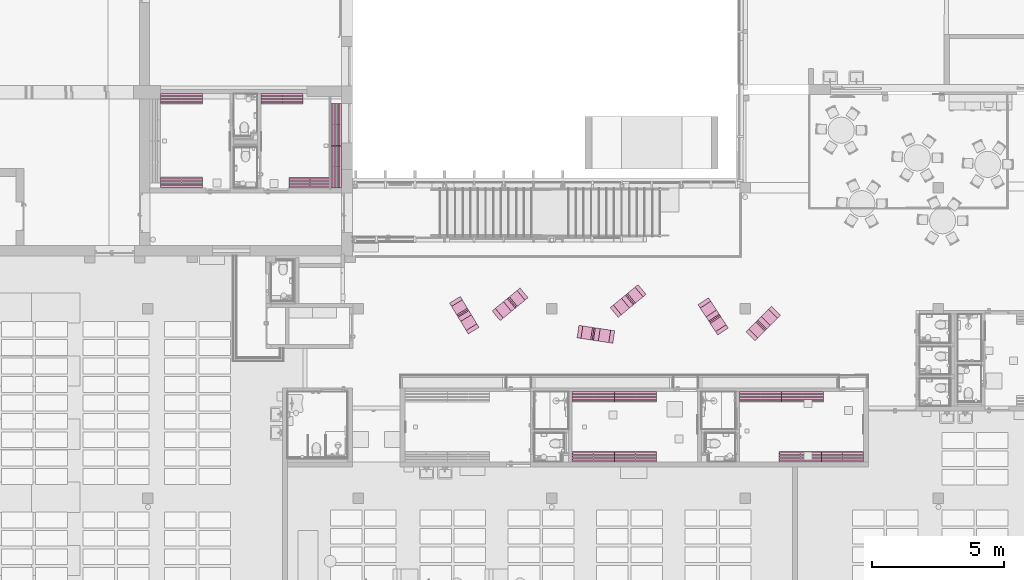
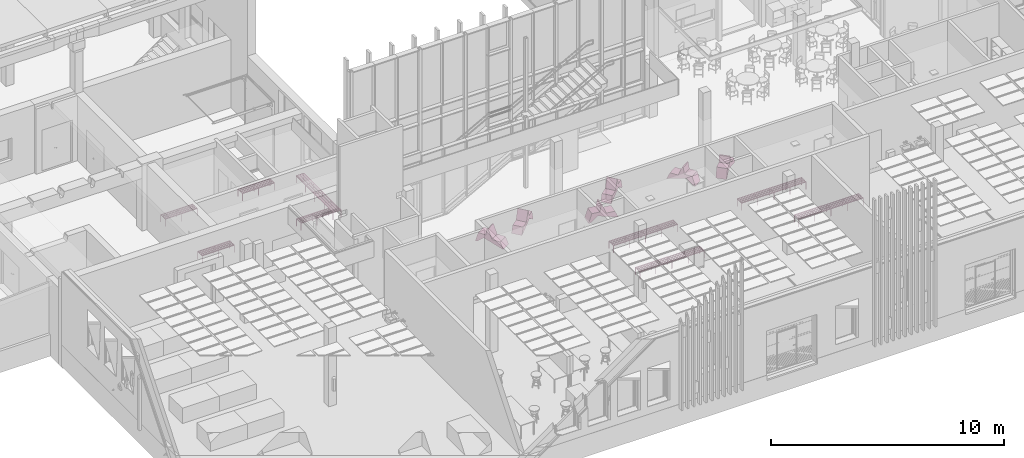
# One storey, part 272 of 301: 20 furnishings.
"""IFC2X3 building model written with IfcOpenShell, lengths in millimetres."""

import ifcopenshell
import ifcopenshell.guid

model = None  # the IFC model being written
_history = None  # IfcOwnerHistory: only IFC2X3 demands one
_inside = {}  # id of a spatial element -> (the spatial element, [elements in it])
_under = {}  # id of a project, library or spatial element -> (it, [spatial elements below it])
_declared = {}  # id of a project -> (the project, [libraries it declares])
_typed = {}  # id of a type object -> (the type object, [elements of that type])
_made_of = {}  # id of a material, layer set ... -> (it, [elements and type objects made of it])


def new_model(schema):
    """Start an empty IFC model of exactly this schema.

    Asked for "IFC4X3", IfcOpenShell would pick the latest addendum, in which some entities
    have other attributes; the version numbers below select the first issue.
    IFC2X3 requires an IfcOwnerHistory on every rooted entity: one is made here for all.
    """
    global model, _history
    if schema == "IFC4X3":
        model = ifcopenshell.file(schema_version=(4, 3, 0, 0))
    else:
        model = ifcopenshell.file(schema=schema)
    _inside.clear()
    _under.clear()
    _declared.clear()
    _typed.clear()
    _made_of.clear()
    _history = None
    if model.schema == "IFC2X3":
        org = make("IfcOrganization", Name="unknown")
        user = make(
            "IfcPersonAndOrganization",
            ThePerson=make("IfcPerson", FamilyName="unknown"),
            TheOrganization=org,
        )
        app = make(
            "IfcApplication",
            ApplicationDeveloper=org,
            Version="unknown",
            ApplicationFullName="unknown",
            ApplicationIdentifier="unknown",
        )
        _history = make(
            "IfcOwnerHistory",
            OwningUser=user,
            OwningApplication=app,
            ChangeAction="ADDED",
            CreationDate=0,
        )
    return model


def make(cls, **values):
    """One entity of the class cls with the attributes given. An attribute that is None is left unset."""
    return model.create_entity(
        cls, **{name: value for name, value in values.items() if value is not None}
    )


def entity(cls, *values):
    """Any entity or typed value of the class cls, its attributes in the order of the schema. None: left unset."""
    e = model.create_entity(cls)
    for i, value in enumerate(values):
        if value is not None:
            e[i] = value
    return e


def rooted(cls, **values):
    """An entity with a GlobalId (a new one), such as an element, a storey or a relation."""
    return make(cls, GlobalId=ifcopenshell.guid.new(), OwnerHistory=_history, **values)


def si_unit(unit_type, name, prefix=None):
    """IfcSIUnit, for example si_unit("LENGTHUNIT", "METRE", prefix="MILLI")."""
    return make("IfcSIUnit", UnitType=unit_type, Prefix=prefix, Name=name)


def converted_unit(unit_type, name, factor, base, dimensions=None, offset=None):
    """IfcConversionBasedUnit, such as the inch: factor (a typed value) times the base unit."""
    return make(
        "IfcConversionBasedUnit"
        if offset is None
        else "IfcConversionBasedUnitWithOffset",
        ConversionOffset=offset,
        Dimensions=None
        if dimensions is None
        else entity("IfcDimensionalExponents", *dimensions),
        UnitType=unit_type,
        Name=name,
        ConversionFactor=make(
            "IfcMeasureWithUnit", ValueComponent=factor, UnitComponent=base
        ),
    )


def derived_unit(unit_type, elements):
    """IfcDerivedUnit: a product of units, each with its exponent."""
    return make(
        "IfcDerivedUnit",
        Elements=[
            make("IfcDerivedUnitElement", Unit=unit, Exponent=power)
            for unit, power in elements
        ],
        UnitType=unit_type,
    )


def money_unit(currency):
    """IfcMonetaryUnit."""
    return make("IfcMonetaryUnit", Currency=currency)


def assignment(units):
    """IfcUnitAssignment: the units of a project."""
    return None if units is None else make("IfcUnitAssignment", Units=units)


def point(xyz):
    """IfcCartesianPoint."""
    return None if xyz is None else make("IfcCartesianPoint", Coordinates=xyz)


def direction(xyz):
    """IfcDirection."""
    return None if xyz is None else make("IfcDirection", DirectionRatios=xyz)


def frame(location, z_axis=None, x_axis=None):
    """IfcAxis2Placement3D, a coordinate frame: its origin and axes. An axis left out is left unset."""
    return make(
        "IfcAxis2Placement3D",
        Location=point(location),
        Axis=direction(z_axis),
        RefDirection=direction(x_axis),
    )


def origin_with_axes():
    """The frame at (0, 0, 0) with the z axis (0, 0, 1) and the x axis (1, 0, 0) written out."""
    return frame((0.0, 0.0, 0.0), z_axis=(0.0, 0.0, 1.0), x_axis=(1.0, 0.0, 0.0))


def place(relative_to, where):
    """IfcLocalPlacement: puts the frame where relative to a parent placement (None: the world)."""
    return make(
        "IfcLocalPlacement", PlacementRelTo=relative_to, RelativePlacement=where
    )


def context(
    kind, dimensions, precision=None, world=None, true_north=None, identifier=None
):
    """IfcGeometricRepresentationContext, for example the 3D "Model" context."""
    return make(
        "IfcGeometricRepresentationContext",
        ContextIdentifier=identifier,
        ContextType=kind,
        CoordinateSpaceDimension=dimensions,
        Precision=precision,
        WorldCoordinateSystem=world,
        TrueNorth=true_north,
    )


def subcontext(parent, identifier, kind, view, scale=None):
    """IfcGeometricRepresentationSubContext, for example "Body" below "Model"."""
    return make(
        "IfcGeometricRepresentationSubContext",
        ContextIdentifier=identifier,
        ContextType=kind,
        ParentContext=parent,
        TargetScale=scale,
        TargetView=view,
    )


def project(units=None, contexts=None):
    """IfcProject with its units and contexts."""
    return rooted(
        "IfcProject",
        Name="project",
        RepresentationContexts=contexts,
        UnitsInContext=assignment(units),
    )


def spatial(cls, under=None, at=None, **own):
    """A site, building, storey or space (cls), placed at a placement, below another one or the project."""
    s = rooted(cls, ObjectPlacement=at, **own)
    if under is not None:
        _under.setdefault(under.id(), (under, []))[1].append(s)
    return s


def faces_of(points, faces, orient=None, outer=None):
    """IfcFace entities. A face is a list of loops; a loop is a list of indices into points, from 0.

    orient and outer hold one flag for each loop. By default every Orientation is true, the
    first loop of a face is its IfcFaceOuterBound and the others are IfcFaceBound.
    """
    made = []
    for i, loops in enumerate(faces):
        bounds = []
        for j, loop in enumerate(loops):
            is_outer = j == 0 if outer is None else outer[i][j]
            bounds.append(
                make(
                    "IfcFaceOuterBound" if is_outer else "IfcFaceBound",
                    Bound=make("IfcPolyLoop", Polygon=[points[k] for k in loop]),
                    Orientation=True if orient is None else orient[i][j],
                )
            )
        made.append(make("IfcFace", Bounds=bounds))
    return made


def faceted_brep(points, faces, orient=None, outer=None, voids=None):
    """IfcFacetedBrep: a solid bounded by flat faces; with voids (closed shells), ...WithVoids."""
    shared = [point(p) for p in points]
    hull = make("IfcClosedShell", CfsFaces=faces_of(shared, faces, orient, outer))
    if voids is None:
        return make("IfcFacetedBrep", Outer=hull)
    return make(
        "IfcFacetedBrepWithVoids",
        Outer=hull,
        Voids=[
            make(cls, CfsFaces=faces_of(shared, fs, o, b)) for cls, fs, o, b in voids
        ],
    )


def shape(context_of_items, identifier, shape_type, items):
    """IfcShapeRepresentation: the items that make up one representation, for example the "Body"."""
    return make(
        "IfcShapeRepresentation",
        ContextOfItems=context_of_items,
        RepresentationIdentifier=identifier,
        RepresentationType=shape_type,
        Items=items,
    )


def source(mapping_origin, context_of_items, identifier, shape_type, items):
    """IfcRepresentationMap: a shape defined once, which mapped items show again and again."""
    return make(
        "IfcRepresentationMap",
        MappingOrigin=mapping_origin,
        MappedRepresentation=shape(context_of_items, identifier, shape_type, items),
    )


def transform(
    local_origin,
    x_axis=None,
    y_axis=None,
    z_axis=None,
    scale=None,
    scale2=None,
    scale3=None,
    uniform=True,
):
    """IfcCartesianTransformationOperator3D, or its non-uniform kind. x_axis, y_axis, z_axis: its Axis1, 2, 3."""
    if uniform:
        return make(
            "IfcCartesianTransformationOperator3D",
            Axis1=direction(x_axis),
            Axis2=direction(y_axis),
            LocalOrigin=point(local_origin),
            Scale=scale,
            Axis3=direction(z_axis),
        )
    return make(
        "IfcCartesianTransformationOperator3DnonUniform",
        Axis1=direction(x_axis),
        Axis2=direction(y_axis),
        LocalOrigin=point(local_origin),
        Scale=scale,
        Axis3=direction(z_axis),
        Scale2=scale2,
        Scale3=scale3,
    )


def mapped(mapping_source, mapping_target):
    """IfcMappedItem: shows the shape of a source again, moved by a transform."""
    return make(
        "IfcMappedItem", MappingSource=mapping_source, MappingTarget=mapping_target
    )


def material(Name=None, Category=None):
    """IfcMaterial."""
    return make("IfcMaterial", Name=Name, Category=Category)


def made_of(thing, what):
    """Note that an element or type object is made of a material, layer set ...; save() writes the relation."""
    if what is not None:
        _made_of.setdefault(what.id(), (what, []))[1].append(thing)
    return thing


def type_object(cls, material=None, **own):
    """A type object (cls), such as IfcWallType, which elements share."""
    return made_of(rooted(cls, **own), material)


def element(
    cls,
    number,
    at=None,
    inside=None,
    cuts=None,
    type_object=None,
    material=None,
    context=None,
    identifier="Body",
    shape_type=None,
    held_by="IfcProductDefinitionShape",
    body=None,
    shapes=None,
    **own,
):
    """One element of the class cls, such as IfcWall. Its Tag is "e" and its number.

    at: its placement. inside: the storey or other place that contains it. cuts: it is an
    opening in that element (IfcRelVoidsElement). A single representation is given by context,
    identifier, shape_type and body (its items); several are given by shapes. held_by: the class
    of the entity that holds the representations. save() writes the other relations.
    """
    e = rooted(cls, Tag="e%d" % number, ObjectPlacement=at, **own)
    if body is not None:
        shapes = [shape(context, identifier, shape_type, body)]
    if shapes is not None:
        e.Representation = make(held_by, Representations=shapes)
    if inside is not None:
        _inside.setdefault(inside.id(), (inside, []))[1].append(e)
    if cuts is not None:
        rooted(
            "IfcRelVoidsElement", RelatingBuildingElement=cuts, RelatedOpeningElement=e
        )
    if type_object is not None:
        _typed.setdefault(type_object.id(), (type_object, []))[1].append(e)
    return made_of(e, material)


def aggregate(whole, parts):
    """IfcRelAggregates: a whole, such as a stair, and the parts it consists of."""
    return rooted("IfcRelAggregates", RelatingObject=whole, RelatedObjects=parts)


def save(model, path):
    """Write the relations noted so far, then the file.

    IfcRelAggregates (storeys below a building ...), IfcRelContainedInSpatialStructure (elements
    in a storey), IfcRelDefinesByType, IfcRelAssociatesMaterial and IfcRelDeclares: one each for
    every whole, place, type object, material and project.
    """
    for whole, parts in _under.values():
        aggregate(whole, parts)
    for where, things in _inside.values():
        rooted(
            "IfcRelContainedInSpatialStructure",
            RelatedElements=things,
            RelatingStructure=where,
        )
    for kind, things in _typed.values():
        rooted("IfcRelDefinesByType", RelatedObjects=things, RelatingType=kind)
    for what, things in _made_of.values():
        rooted("IfcRelAssociatesMaterial", RelatedObjects=things, RelatingMaterial=what)
    for by, libraries in _declared.values():
        rooted("IfcRelDeclares", RelatingContext=by, RelatedDefinitions=libraries)
    model.write(path)


model = new_model("IFC2X3")

# Units and contexts
model_context = context("Model", 3, precision=0.01, world=origin_with_axes(), true_north=direction((0.0, 1.0)))
body_context = subcontext(model_context, "Body", "Model", "MODEL_VIEW")
ifc_project = project(units=[si_unit("LENGTHUNIT", "METRE", prefix="MILLI"), si_unit("AREAUNIT", "SQUARE_METRE"), si_unit("VOLUMEUNIT", "CUBIC_METRE"), converted_unit("PLANEANGLEUNIT", "DEGREE", entity("IfcPlaneAngleMeasure", 0.0174532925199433), si_unit("PLANEANGLEUNIT", "RADIAN"), dimensions=[0, 0, 0, 0, 0, 0, 0]), money_unit("EUR"), converted_unit("TIMEUNIT", "Year", entity("IfcTimeMeasure", 31557600.0), si_unit("TIMEUNIT", "SECOND"), dimensions=[0, 0, 1, 0, 0, 0, 0]), si_unit("MASSUNIT", "GRAM", prefix="KILO"), si_unit("THERMODYNAMICTEMPERATUREUNIT", "DEGREE_CELSIUS"), si_unit("LUMINOUSINTENSITYUNIT", "LUMEN"), si_unit("ENERGYUNIT", "JOULE", prefix="MEGA"), derived_unit("THERMALCONDUCTANCEUNIT", [(si_unit("POWERUNIT", "WATT"), 1), (si_unit("LENGTHUNIT", "METRE"), -1), (si_unit("THERMODYNAMICTEMPERATUREUNIT", "KELVIN"), -1)]), derived_unit("SPECIFICHEATCAPACITYUNIT", [(si_unit("ENERGYUNIT", "JOULE"), 1), (si_unit("MASSUNIT", "GRAM", prefix="KILO"), -1), (si_unit("THERMODYNAMICTEMPERATUREUNIT", "KELVIN"), -1)]), derived_unit("MASSDENSITYUNIT", [(si_unit("MASSUNIT", "GRAM", prefix="KILO"), 1), (si_unit("VOLUMEUNIT", "CUBIC_METRE"), -1)])], contexts=[model_context])

# Site, building, storey
site_placement = place(None, frame((0.0, 0.0, 8650.0), z_axis=(0.0, 0.0, 1.0), x_axis=(1.0, 0.0, 0.0)))
site = spatial("IfcSite", under=ifc_project, at=site_placement, Name="43301:001:0844", CompositionType="ELEMENT")
building_placement = place(site_placement, origin_with_axes())
building = spatial("IfcBuilding", under=site, at=building_placement, Name="Kuressaare Ametikooli tuulikute mehaanikute õppekorpus", CompositionType="ELEMENT")
storey_placement = place(building_placement, origin_with_axes())
storey = spatial("IfcBuildingStorey", under=building, at=storey_placement, Name="1.korrus", CompositionType="ELEMENT", Elevation=0.0)

# Furnishings
furniture_type_1 = type_object("IfcFurnitureType", Name="Bench 27", AssemblyPlace="NOTDEFINED")
shared_shape_1 = source(origin_with_axes(), body_context, "Body", "Brep", [
    faceted_brep([(20.0, 0.0, 0.0), (0.0, 0.0, 0.0), (0.0, 20.0, 0.0), (20.0, 20.0, 0.0), (20.0, 0.0, 385.0), (0.0, 0.0, 385.0), (0.0, 20.0, 385.0), (20.0, 20.0, 385.0)], [[[0, 1, 2, 3]], [[1, 0, 4, 5]], [[2, 1, 5, 6]], [[3, 2, 6, 7]], [[0, 3, 7, 4]], [[5, 4, 7, 6]]]),
    faceted_brep([(20.0, 380.0, 0.0), (0.0, 380.0, 0.0), (0.0, 400.0, 0.0), (20.0, 400.0, 0.0), (20.0, 380.0, 385.0), (0.0, 380.0, 385.0), (0.0, 400.0, 385.0), (20.0, 400.0, 385.0)], [[[0, 1, 2, 3]], [[1, 0, 4, 5]], [[2, 1, 5, 6]], [[3, 2, 6, 7]], [[0, 3, 7, 4]], [[5, 4, 7, 6]]]),
    faceted_brep([(1600.000000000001, 0.0, 0.0), (1580.000000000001, 0.0, 0.0), (1580.000000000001, 20.0, 0.0), (1600.000000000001, 20.0, 0.0), (1600.000000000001, 0.0, 385.0), (1580.000000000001, 0.0, 385.0), (1580.000000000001, 20.0, 385.0), (1600.000000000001, 20.0, 385.0)], [[[0, 1, 2, 3]], [[1, 0, 4, 5]], [[2, 1, 5, 6]], [[3, 2, 6, 7]], [[0, 3, 7, 4]], [[5, 4, 7, 6]]]),
    faceted_brep([(1600.000000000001, 380.0, 0.0), (1580.000000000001, 380.0, 0.0), (1580.000000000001, 400.0, 0.0), (1600.000000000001, 400.0, 0.0), (1600.000000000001, 380.0, 385.0), (1580.000000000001, 380.0, 385.0), (1580.000000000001, 400.0, 385.0), (1600.000000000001, 400.0, 385.0)], [[[0, 1, 2, 3]], [[1, 0, 4, 5]], [[2, 1, 5, 6]], [[3, 2, 6, 7]], [[0, 3, 7, 4]], [[5, 4, 7, 6]]]),
    faceted_brep([(810.0000000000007, 0.0, 0.0), (790.0000000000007, 0.0, 0.0), (790.0000000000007, 20.0, 0.0), (810.0000000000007, 20.0, 0.0), (810.0000000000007, 0.0, 385.0), (790.0000000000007, 0.0, 385.0), (790.0000000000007, 20.0, 385.0), (810.0000000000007, 20.0, 385.0)], [[[0, 1, 2, 3]], [[1, 0, 4, 5]], [[2, 1, 5, 6]], [[3, 2, 6, 7]], [[0, 3, 7, 4]], [[5, 4, 7, 6]]]),
    faceted_brep([(810.0000000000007, 380.0, 0.0), (790.0000000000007, 380.0, 0.0), (790.0000000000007, 400.0, 0.0), (810.0000000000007, 400.0, 0.0), (810.0000000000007, 380.0, 385.0), (790.0000000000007, 380.0, 385.0), (790.0000000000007, 400.0, 385.0), (810.0000000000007, 400.0, 385.0)], [[[0, 1, 2, 3]], [[1, 0, 4, 5]], [[2, 1, 5, 6]], [[3, 2, 6, 7]], [[0, 3, 7, 4]], [[5, 4, 7, 6]]]),
    faceted_brep([(790.0000000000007, 0.0, 365.0000000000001), (20.0, 0.0, 365.0000000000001), (20.0, 20.0, 365.0000000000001), (790.0000000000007, 20.0, 365.0000000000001), (790.0000000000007, 0.0, 385.0000000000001), (20.0, 0.0, 385.0000000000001), (20.0, 20.0, 385.0000000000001), (790.0000000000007, 20.0, 385.0000000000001)], [[[0, 1, 2, 3]], [[1, 0, 4, 5]], [[2, 1, 5, 6]], [[3, 2, 6, 7]], [[0, 3, 7, 4]], [[5, 4, 7, 6]]]),
    faceted_brep([(1580.000000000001, 0.0, 365.0000000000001), (810.0000000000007, 0.0, 365.0000000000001), (810.0000000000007, 20.0, 365.0000000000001), (1580.000000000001, 20.0, 365.0000000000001), (1580.000000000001, 0.0, 385.0000000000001), (810.0000000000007, 0.0, 385.0000000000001), (810.0000000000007, 20.0, 385.0000000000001), (1580.000000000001, 20.0, 385.0000000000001)], [[[0, 1, 2, 3]], [[1, 0, 4, 5]], [[2, 1, 5, 6]], [[3, 2, 6, 7]], [[0, 3, 7, 4]], [[5, 4, 7, 6]]]),
    faceted_brep([(790.0000000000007, 380.0, 365.0000000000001), (20.0, 380.0, 365.0000000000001), (20.0, 400.0, 365.0000000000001), (790.0000000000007, 400.0, 365.0000000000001), (790.0000000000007, 380.0, 385.0000000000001), (20.0, 380.0, 385.0000000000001), (20.0, 400.0, 385.0000000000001), (790.0000000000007, 400.0, 385.0000000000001)], [[[0, 1, 2, 3]], [[1, 0, 4, 5]], [[2, 1, 5, 6]], [[3, 2, 6, 7]], [[0, 3, 7, 4]], [[5, 4, 7, 6]]]),
    faceted_brep([(1580.000000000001, 380.0, 365.0000000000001), (810.0000000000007, 380.0, 365.0000000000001), (810.0000000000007, 400.0, 365.0000000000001), (1580.000000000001, 400.0, 365.0000000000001), (1580.000000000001, 380.0, 385.0000000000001), (810.0000000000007, 380.0, 385.0000000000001), (810.0000000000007, 400.0, 385.0000000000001), (1580.000000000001, 400.0, 385.0000000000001)], [[[0, 1, 2, 3]], [[1, 0, 4, 5]], [[2, 1, 5, 6]], [[3, 2, 6, 7]], [[0, 3, 7, 4]], [[5, 4, 7, 6]]]),
    faceted_brep([(20.0, 20.0, 365.0000000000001), (0.0, 20.0, 365.0000000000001), (0.0, 380.0000000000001, 365.0000000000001), (20.0, 380.0000000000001, 365.0000000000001), (20.0, 20.0, 385.0000000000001), (0.0, 20.0, 385.0000000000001), (0.0, 380.0000000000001, 385.0000000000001), (20.0, 380.0000000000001, 385.0000000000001)], [[[0, 1, 2, 3]], [[1, 0, 4, 5]], [[2, 1, 5, 6]], [[3, 2, 6, 7]], [[0, 3, 7, 4]], [[5, 4, 7, 6]]]),
    faceted_brep([(810.0000000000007, 20.0, 365.0000000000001), (790.0000000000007, 20.0, 365.0000000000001), (790.0000000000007, 380.0000000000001, 365.0000000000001), (810.0000000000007, 380.0000000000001, 365.0000000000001), (810.0000000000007, 20.0, 385.0000000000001), (790.0000000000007, 20.0, 385.0000000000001), (790.0000000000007, 380.0000000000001, 385.0000000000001), (810.0000000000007, 380.0000000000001, 385.0000000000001)], [[[0, 1, 2, 3]], [[1, 0, 4, 5]], [[2, 1, 5, 6]], [[3, 2, 6, 7]], [[0, 3, 7, 4]], [[5, 4, 7, 6]]]),
    faceted_brep([(1600.000000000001, 20.0, 365.0000000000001), (1580.000000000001, 20.0, 365.0000000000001), (1580.000000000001, 380.0000000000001, 365.0000000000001), (1600.000000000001, 380.0000000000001, 365.0000000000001), (1600.000000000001, 20.0, 385.0000000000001), (1580.000000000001, 20.0, 385.0000000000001), (1580.000000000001, 380.0000000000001, 385.0000000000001), (1600.000000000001, 380.0000000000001, 385.0000000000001)], [[[0, 1, 2, 3]], [[1, 0, 4, 5]], [[2, 1, 5, 6]], [[3, 2, 6, 7]], [[0, 3, 7, 4]], [[5, 4, 7, 6]]]),
    faceted_brep([(0.0, 330.0, 385.0), (1600.000000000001, 330.0, 385.0), (1600.000000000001, 330.0, 400.0), (0.0, 330.0, 400.0), (0.0, 400.0, 385.0), (1600.000000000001, 400.0, 385.0), (1600.000000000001, 400.0, 400.0), (0.0, 400.0, 400.0)], [[[0, 1, 2, 3]], [[0, 4, 5, 1]], [[1, 5, 6, 2]], [[3, 2, 6, 7]], [[4, 0, 3, 7]], [[5, 4, 7, 6]]]),
    faceted_brep([(1600.000000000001, 0.0, 385.0), (0.0, 0.0, 385.0), (0.0, 70.0, 385.0), (1600.000000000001, 70.0, 385.0), (1600.000000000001, 0.0, 400.0), (0.0, 0.0, 400.0), (0.0, 70.0, 400.0), (1600.000000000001, 70.0, 400.0)], [[[0, 1, 2, 3]], [[1, 0, 4, 5]], [[2, 1, 5, 6]], [[3, 2, 6, 7]], [[0, 3, 7, 4]], [[5, 4, 7, 6]]]),
    faceted_brep([(1600.000000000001, 110.0, 385.0), (0.0, 110.0, 385.0), (0.0, 180.0, 385.0), (1600.000000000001, 180.0, 385.0), (1600.000000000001, 110.0, 400.0), (0.0, 110.0, 400.0), (0.0, 180.0, 400.0), (1600.000000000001, 180.0, 400.0)], [[[0, 1, 2, 3]], [[1, 0, 4, 5]], [[2, 1, 5, 6]], [[3, 2, 6, 7]], [[0, 3, 7, 4]], [[5, 4, 7, 6]]]),
    faceted_brep([(1600.000000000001, 220.0, 385.0), (0.0, 220.0, 385.0), (0.0, 290.0000000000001, 385.0), (1600.000000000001, 290.0000000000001, 385.0), (1600.000000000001, 220.0, 400.0), (0.0, 220.0, 400.0), (0.0, 290.0000000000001, 400.0), (1600.000000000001, 290.0000000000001, 400.0)], [[[0, 1, 2, 3]], [[1, 0, 4, 5]], [[2, 1, 5, 6]], [[3, 2, 6, 7]], [[0, 3, 7, 4]], [[5, 4, 7, 6]]]),
])
for number, where, z_axis, x_axis, name in (
    (1, (113595.5119447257, 20624.83570722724, 0.0), (0.0, 0.0, 1.0), (-1.0, 0.0, 0.0), "PI1"),
    (2, (115195.5119447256, 20624.83592158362, 0.0), (0.0, 0.0, 1.0), (-1.0, 0.0, 0.0), "PI1"),
    (3, (119945.2604362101, 20624.83745879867, 0.0), (0.0, 0.0, 1.0), (-1.0, 0.0, 0.0), "PI1"),
    (4, (121545.2604362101, 20624.83767315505, 0.0), (0.0, 0.0, 1.0), (-1.0, 0.0, 0.0), "PI1"),
    (5, (97946.58404053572, 31954.00951750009, 0.0), (0.0, 0.0, 1.0), (-1.0, 0.0, 0.0), "PI1"),
    (6, (101227.5122070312, 28373.06892365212, 0.0), (0.0, 0.0, 1.0), (1.0, 0.0, 0.0), "PI1"),
):
    element("IfcFurnishingElement", number, at=place(storey_placement, frame(where, z_axis=z_axis, x_axis=x_axis)), inside=storey, type_object=furniture_type_1, Name=name, context=body_context, shape_type="MappedRepresentation", body=[
        mapped(shared_shape_1, transform((0.0, 0.0, 0.0))),
    ])
shared_shape_2 = source(origin_with_axes(), body_context, "Body", "Brep", [
    faceted_brep([(-20.0, 0.0, 0.0), (-20.0, 20.0, 0.0), (0.0, 20.0, 0.0), (0.0, 0.0, 0.0), (-20.0, 0.0, 385.0), (-20.0, 20.0, 385.0), (0.0, 20.0, 385.0), (0.0, 0.0, 385.0)], [[[0, 1, 2, 3]], [[0, 4, 5, 1]], [[1, 5, 6, 2]], [[2, 6, 7, 3]], [[3, 7, 4, 0]], [[7, 6, 5, 4]]]),
    faceted_brep([(-20.0, 380.0, 0.0), (-20.0, 400.0, 0.0), (0.0, 400.0, 0.0), (0.0, 380.0, 0.0), (-20.0, 380.0, 385.0), (-20.0, 400.0, 385.0), (0.0, 400.0, 385.0), (0.0, 380.0, 385.0)], [[[0, 1, 2, 3]], [[0, 4, 5, 1]], [[1, 5, 6, 2]], [[2, 6, 7, 3]], [[3, 7, 4, 0]], [[7, 6, 5, 4]]]),
    faceted_brep([(-1600.000000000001, 0.0, 0.0), (-1600.000000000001, 20.0, 0.0), (-1580.000000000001, 20.0, 0.0), (-1580.000000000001, 0.0, 0.0), (-1600.000000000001, 0.0, 385.0), (-1600.000000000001, 20.0, 385.0), (-1580.000000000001, 20.0, 385.0), (-1580.000000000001, 0.0, 385.0)], [[[0, 1, 2, 3]], [[0, 4, 5, 1]], [[1, 5, 6, 2]], [[2, 6, 7, 3]], [[3, 7, 4, 0]], [[7, 6, 5, 4]]]),
    faceted_brep([(-1600.000000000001, 380.0, 0.0), (-1600.000000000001, 400.0, 0.0), (-1580.000000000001, 400.0, 0.0), (-1580.000000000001, 380.0, 0.0), (-1600.000000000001, 380.0, 385.0), (-1600.000000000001, 400.0, 385.0), (-1580.000000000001, 400.0, 385.0), (-1580.000000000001, 380.0, 385.0)], [[[0, 1, 2, 3]], [[0, 4, 5, 1]], [[1, 5, 6, 2]], [[2, 6, 7, 3]], [[3, 7, 4, 0]], [[7, 6, 5, 4]]]),
    faceted_brep([(-810.0000000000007, 0.0, 0.0), (-810.0000000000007, 20.0, 0.0), (-790.0000000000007, 20.0, 0.0), (-790.0000000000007, 0.0, 0.0), (-810.0000000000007, 0.0, 385.0), (-810.0000000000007, 20.0, 385.0), (-790.0000000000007, 20.0, 385.0), (-790.0000000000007, 0.0, 385.0)], [[[0, 1, 2, 3]], [[0, 4, 5, 1]], [[1, 5, 6, 2]], [[2, 6, 7, 3]], [[3, 7, 4, 0]], [[7, 6, 5, 4]]]),
    faceted_brep([(-810.0000000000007, 380.0, 0.0), (-810.0000000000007, 400.0, 0.0), (-790.0000000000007, 400.0, 0.0), (-790.0000000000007, 380.0, 0.0), (-810.0000000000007, 380.0, 385.0), (-810.0000000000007, 400.0, 385.0), (-790.0000000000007, 400.0, 385.0), (-790.0000000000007, 380.0, 385.0)], [[[0, 1, 2, 3]], [[0, 4, 5, 1]], [[1, 5, 6, 2]], [[2, 6, 7, 3]], [[3, 7, 4, 0]], [[7, 6, 5, 4]]]),
    faceted_brep([(-790.0000000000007, 0.0, 365.0000000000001), (-790.0000000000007, 20.0, 365.0000000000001), (-20.0, 20.0, 365.0000000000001), (-20.0, 0.0, 365.0000000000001), (-790.0000000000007, 0.0, 385.0000000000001), (-790.0000000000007, 20.0, 385.0000000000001), (-20.0, 20.0, 385.0000000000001), (-20.0, 0.0, 385.0000000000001)], [[[0, 1, 2, 3]], [[0, 4, 5, 1]], [[1, 5, 6, 2]], [[2, 6, 7, 3]], [[3, 7, 4, 0]], [[7, 6, 5, 4]]]),
    faceted_brep([(-1580.000000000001, 0.0, 365.0000000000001), (-1580.000000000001, 20.0, 365.0000000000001), (-810.0000000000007, 20.0, 365.0000000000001), (-810.0000000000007, 0.0, 365.0000000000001), (-1580.000000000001, 0.0, 385.0000000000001), (-1580.000000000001, 20.0, 385.0000000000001), (-810.0000000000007, 20.0, 385.0000000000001), (-810.0000000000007, 0.0, 385.0000000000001)], [[[0, 1, 2, 3]], [[0, 4, 5, 1]], [[1, 5, 6, 2]], [[2, 6, 7, 3]], [[3, 7, 4, 0]], [[7, 6, 5, 4]]]),
    faceted_brep([(-790.0000000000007, 380.0, 365.0000000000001), (-790.0000000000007, 400.0, 365.0000000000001), (-20.0, 400.0, 365.0000000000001), (-20.0, 380.0, 365.0000000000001), (-790.0000000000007, 380.0, 385.0000000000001), (-790.0000000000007, 400.0, 385.0000000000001), (-20.0, 400.0, 385.0000000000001), (-20.0, 380.0, 385.0000000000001)], [[[0, 1, 2, 3]], [[0, 4, 5, 1]], [[1, 5, 6, 2]], [[2, 6, 7, 3]], [[3, 7, 4, 0]], [[7, 6, 5, 4]]]),
    faceted_brep([(-1580.000000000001, 380.0, 365.0000000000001), (-1580.000000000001, 400.0, 365.0000000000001), (-810.0000000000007, 400.0, 365.0000000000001), (-810.0000000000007, 380.0, 365.0000000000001), (-1580.000000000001, 380.0, 385.0000000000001), (-1580.000000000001, 400.0, 385.0000000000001), (-810.0000000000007, 400.0, 385.0000000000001), (-810.0000000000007, 380.0, 385.0000000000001)], [[[0, 1, 2, 3]], [[0, 4, 5, 1]], [[1, 5, 6, 2]], [[2, 6, 7, 3]], [[3, 7, 4, 0]], [[7, 6, 5, 4]]]),
    faceted_brep([(-20.0, 20.0, 365.0000000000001), (-20.0, 380.0000000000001, 365.0000000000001), (0.0, 380.0000000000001, 365.0000000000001), (0.0, 20.0, 365.0000000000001), (-20.0, 20.0, 385.0000000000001), (-20.0, 380.0000000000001, 385.0000000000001), (0.0, 380.0000000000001, 385.0000000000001), (0.0, 20.0, 385.0000000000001)], [[[0, 1, 2, 3]], [[0, 4, 5, 1]], [[1, 5, 6, 2]], [[2, 6, 7, 3]], [[3, 7, 4, 0]], [[7, 6, 5, 4]]]),
    faceted_brep([(-810.0000000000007, 20.0, 365.0000000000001), (-810.0000000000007, 380.0000000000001, 365.0000000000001), (-790.0000000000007, 380.0000000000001, 365.0000000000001), (-790.0000000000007, 20.0, 365.0000000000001), (-810.0000000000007, 20.0, 385.0000000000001), (-810.0000000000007, 380.0000000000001, 385.0000000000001), (-790.0000000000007, 380.0000000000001, 385.0000000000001), (-790.0000000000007, 20.0, 385.0000000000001)], [[[0, 1, 2, 3]], [[0, 4, 5, 1]], [[1, 5, 6, 2]], [[2, 6, 7, 3]], [[3, 7, 4, 0]], [[7, 6, 5, 4]]]),
    faceted_brep([(-1600.000000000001, 20.0, 365.0000000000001), (-1600.000000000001, 380.0000000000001, 365.0000000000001), (-1580.000000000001, 380.0000000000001, 365.0000000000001), (-1580.000000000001, 20.0, 365.0000000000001), (-1600.000000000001, 20.0, 385.0000000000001), (-1600.000000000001, 380.0000000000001, 385.0000000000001), (-1580.000000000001, 380.0000000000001, 385.0000000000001), (-1580.000000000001, 20.0, 385.0000000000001)], [[[0, 1, 2, 3]], [[0, 4, 5, 1]], [[1, 5, 6, 2]], [[2, 6, 7, 3]], [[3, 7, 4, 0]], [[7, 6, 5, 4]]]),
    faceted_brep([(0.0, 330.0, 385.0), (0.0, 330.0, 400.0), (-1600.000000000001, 330.0, 400.0), (-1600.000000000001, 330.0, 385.0), (0.0, 400.0, 385.0), (0.0, 400.0, 400.0), (-1600.000000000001, 400.0, 400.0), (-1600.000000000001, 400.0, 385.0)], [[[0, 1, 2, 3]], [[4, 5, 1, 0]], [[1, 5, 6, 2]], [[3, 2, 6, 7]], [[0, 3, 7, 4]], [[7, 6, 5, 4]]]),
    faceted_brep([(-1600.000000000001, 0.0, 385.0), (-1600.000000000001, 70.0, 385.0), (0.0, 70.0, 385.0), (0.0, 0.0, 385.0), (-1600.000000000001, 0.0, 400.0), (-1600.000000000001, 70.0, 400.0), (0.0, 70.0, 400.0), (0.0, 0.0, 400.0)], [[[0, 1, 2, 3]], [[0, 4, 5, 1]], [[1, 5, 6, 2]], [[2, 6, 7, 3]], [[3, 7, 4, 0]], [[7, 6, 5, 4]]]),
    faceted_brep([(-1600.000000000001, 110.0, 385.0), (-1600.000000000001, 180.0, 385.0), (0.0, 180.0, 385.0), (0.0, 110.0, 385.0), (-1600.000000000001, 110.0, 400.0), (-1600.000000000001, 180.0, 400.0), (0.0, 180.0, 400.0), (0.0, 110.0, 400.0)], [[[0, 1, 2, 3]], [[0, 4, 5, 1]], [[1, 5, 6, 2]], [[2, 6, 7, 3]], [[3, 7, 4, 0]], [[7, 6, 5, 4]]]),
    faceted_brep([(-1600.000000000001, 220.0, 385.0), (-1600.000000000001, 290.0000000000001, 385.0), (0.0, 290.0000000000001, 385.0), (0.0, 220.0, 385.0), (-1600.000000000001, 220.0, 400.0), (-1600.000000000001, 290.0000000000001, 400.0), (0.0, 290.0000000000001, 400.0), (0.0, 220.0, 400.0)], [[[0, 1, 2, 3]], [[0, 4, 5, 1]], [[1, 5, 6, 2]], [[2, 6, 7, 3]], [[3, 7, 4, 0]], [[7, 6, 5, 4]]]),
])
for number, where, z_axis, x_axis, name in (
    (7, (123065.2609256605, 17954.83706625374, 0.0), (0.0, 0.0, 1.0), (1.0, 0.0, 0.0), "PI1"),
    (8, (121465.2609256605, 17954.83706625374, 0.0), (0.0, 0.0, 1.0), (1.0, 0.0, 0.0), "PI1"),
    (9, (115195.5182098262, 17954.81226580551, 0.0), (0.0, 0.0, 1.0), (1.0, 0.0, 0.0), "PI1"),
    (10, (113595.5182098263, 17954.81248016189, 0.0), (0.0, 0.0, 1.0), (1.0, 0.0, 0.0), "PI1"),
    (11, (97948.27735122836, 28384.06892395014, 0.0), (0.0, 0.0, 1.0), (1.0, 0.0, 0.0), "PI1"),
    (12, (103227.5122070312, 29973.06892365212, 0.0), (0.0, 0.0, 1.0), (0.0, 1.0, 0.0), "PI1"),
    (13, (103227.5124213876, 31573.06892365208, 0.0), (0.0, 0.0, 1.0), (0.0, 1.0, 0.0), "PI1"),
    (14, (100167.7066643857, 31954.00949489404, 0.0), (0.0, 0.0, 1.0), (-1.0, 0.0, 0.0), "PI1"),
):
    element("IfcFurnishingElement", number, at=place(storey_placement, frame(where, z_axis=z_axis, x_axis=x_axis)), inside=storey, type_object=furniture_type_1, Name=name, context=body_context, shape_type="MappedRepresentation", body=[
        mapped(shared_shape_2, transform((0.0, 0.0, 0.0))),
    ])
ifc_material = material(Name="GENEERILINE - EHITUSTOODE")
furniture_type_2 = type_object("IfcFurnitureType", Name="GENEERILINE - EHITUSTOODE", AssemblyPlace="NOTDEFINED")
shared_shape_3 = source(origin_with_axes(), body_context, "Body", "Brep", [
    faceted_brep([(0.0, 0.0, 0.0), (38.49377626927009, -0.2203238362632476, 0.0), (38.49377626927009, -0.2203238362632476, 480.0), (0.0, 0.0, 480.0), (155.2681459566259, 338.015318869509, 0.0), (557.6728796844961, 338.015318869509, 0.0), (743.9862714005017, 824.5058750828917, 0.0), (793.8806976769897, 805.3975909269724, 0.0), (851.736982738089, 475.7314951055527, 0.0), (1225.517730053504, 475.7314951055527, 0.0), (1374.323647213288, -0.4406476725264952, 0.0), (1296.77690165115, -0.4406476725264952, 0.0), (955.1520495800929, 288.7877546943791, 0.0), (955.1520495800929, 288.7877546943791, 480.0), (1296.77690165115, -0.4406476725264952, 480.0), (1374.323647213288, -0.4406476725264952, 480.0), (1225.517730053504, 475.7314951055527, 480.0), (851.736982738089, 475.7314951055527, 480.0), (793.8806976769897, 805.3975909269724, 480.0), (743.9862714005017, 824.5058750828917, 480.0), (557.6728796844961, 338.015318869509, 480.0), (155.2681459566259, 338.015318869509, 480.0)], [[[0, 1, 2, 3]], [[1, 0, 4, 5, 6, 7, 8, 9, 10, 11, 12]], [[2, 1, 12, 13]], [[3, 2, 13, 14, 15, 16, 17, 18, 19, 20, 21]], [[4, 0, 3, 21]], [[4, 21, 20, 5]], [[6, 5, 20, 19]], [[19, 18, 7, 6]], [[17, 8, 7, 18]], [[17, 16, 9, 8]], [[15, 10, 9, 16]], [[14, 11, 10, 15]], [[13, 12, 11, 14]]]),
])
for number, where, z_axis, x_axis, name in (
    (15, (117175.8274557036, 24194.45521224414, 0.4406476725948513), (-0.8368281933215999, -0.5474655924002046, 0.0), (0.5474655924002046, -0.8368281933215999, 0.0), "T6"),
    (16, (113437.4372996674, 23821.22667230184, 0.4406476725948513), (0.6357468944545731, -0.7718975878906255, 0.0), (0.7718975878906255, 0.6357468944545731, 0.0), "T6"),
    (17, (108950.3838613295, 23693.08162727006, 0.4406476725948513), (0.6357468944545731, -0.7718975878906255, 0.0), (0.7718975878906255, 0.6357468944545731, 0.0), "T6"),
):
    element("IfcFurnishingElement", number, at=place(storey_placement, frame(where, z_axis=z_axis, x_axis=x_axis)), inside=storey, type_object=furniture_type_2, material=ifc_material, Name=name, context=body_context, shape_type="MappedRepresentation", body=[
        mapped(shared_shape_3, transform((0.0, 0.0, 0.0))),
    ])
shared_shape_4 = source(origin_with_axes(), body_context, "Body", "Brep", [
    faceted_brep([(0.0, 0.0, 0.0), (0.0, 0.0, 480.0), (-38.49377626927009, -0.2203238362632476, 480.0), (-38.49377626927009, -0.2203238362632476, 0.0), (-155.2681459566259, 338.015318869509, 0.0), (-155.2681459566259, 338.015318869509, 480.0), (-557.6728796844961, 338.015318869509, 480.0), (-743.9862714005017, 824.5058750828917, 480.0), (-793.8806976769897, 805.3975909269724, 480.0), (-851.736982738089, 475.7314951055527, 480.0), (-1225.517730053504, 475.7314951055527, 480.0), (-1374.323647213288, -0.4406476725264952, 480.0), (-1296.77690165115, -0.4406476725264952, 480.0), (-955.1520495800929, 288.7877546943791, 480.0), (-955.1520495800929, 288.7877546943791, 0.0), (-1296.77690165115, -0.4406476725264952, 0.0), (-1374.323647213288, -0.4406476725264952, 0.0), (-1225.517730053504, 475.7314951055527, 0.0), (-851.736982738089, 475.7314951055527, 0.0), (-793.8806976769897, 805.3975909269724, 0.0), (-743.9862714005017, 824.5058750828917, 0.0), (-557.6728796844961, 338.015318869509, 0.0)], [[[0, 1, 2, 3]], [[4, 5, 1, 0]], [[1, 5, 6, 7, 8, 9, 10, 11, 12, 13, 2]], [[2, 13, 14, 3]], [[3, 14, 15, 16, 17, 18, 19, 20, 21, 4, 0]], [[4, 21, 6, 5]], [[20, 7, 6, 21]], [[7, 20, 19, 8]], [[9, 8, 19, 18]], [[9, 18, 17, 10]], [[11, 10, 17, 16]], [[12, 11, 16, 15]], [[13, 12, 15, 14]]]),
])
for number, where, z_axis, x_axis, name in (
    (18, (113610.0832246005, 22939.6090755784, 0.4406476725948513), (-0.1498053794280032, -0.9887155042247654, 0.0), (0.9887155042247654, -0.1498053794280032, 0.0), "T6"),
    (19, (119575.3783018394, 23868.26997002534, 0.4406476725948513), (0.7071067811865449, -0.7071067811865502, 0.0), (0.7071067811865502, 0.7071067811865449, 0.0), "T6"),
    (20, (108453.6191164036, 23069.22945830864, 0.4406476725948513), (-0.8546157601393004, -0.5192609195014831, 0.0), (0.5192609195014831, -0.8546157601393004, 0.0), "T6"),
):
    element("IfcFurnishingElement", number, at=place(storey_placement, frame(where, z_axis=z_axis, x_axis=x_axis)), inside=storey, type_object=furniture_type_2, material=ifc_material, Name=name, context=body_context, shape_type="MappedRepresentation", body=[
        mapped(shared_shape_4, transform((0.0, 0.0, 0.0))),
    ])

save(model, "model.ifc")
